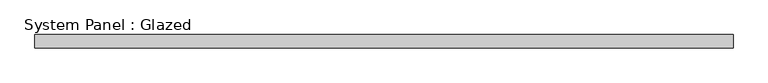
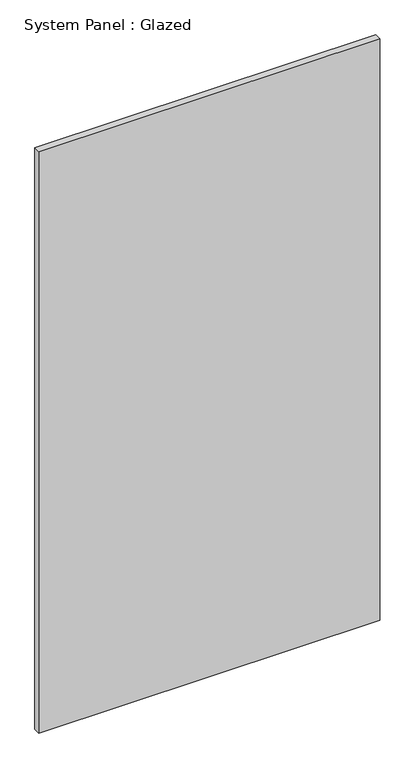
"""IFC4 building model written with IfcOpenShell, lengths in millimetres: plate geometry, System Panel : Glazed."""

from ifc_helpers import new_model, si_unit, origin, origin_with_axes, place, context, project, spatial, polyline, outline, extrude, source, transform, mapped, element, save


def system_panel_glazed_5715ea40(model_context):
    return source(origin(), model_context, "Body", "SweptSolid", [
        extrude(outline(polyline([(651.6601177, -49.5), (-651.6601177, -49.5), (-651.6601177, -24.5), (651.6601177, -24.5), (651.6601177, -49.5)])), origin_with_axes(), (0.0, 0.0, 1.0), 2350.0),
    ])


if __name__ == "__main__":
    model = new_model("IFC4")
    model_context = context("Model", 3, world=origin())
    ifc_project = project(units=[si_unit("LENGTHUNIT", "METRE", prefix="MILLI")], contexts=[model_context])
    site = spatial("IfcSite", under=ifc_project)
    building = spatial("IfcBuilding", under=site)
    placement = place(None, origin())
    system_panel_glazed_shape = system_panel_glazed_5715ea40(model_context)
    element("IfcPlate", 1, ObjectType="System Panel : Glazed", at=placement, inside=building, context=model_context, shape_type="MappedRepresentation", body=[
        mapped(system_panel_glazed_shape, transform((0.0, 0.0, 0.0), x_axis=(1.0, 0.0, 0.0), y_axis=(0.0, 1.0, 0.0), z_axis=(0.0, 0.0, 1.0))),
    ])
    save(model, "model.ifc")
